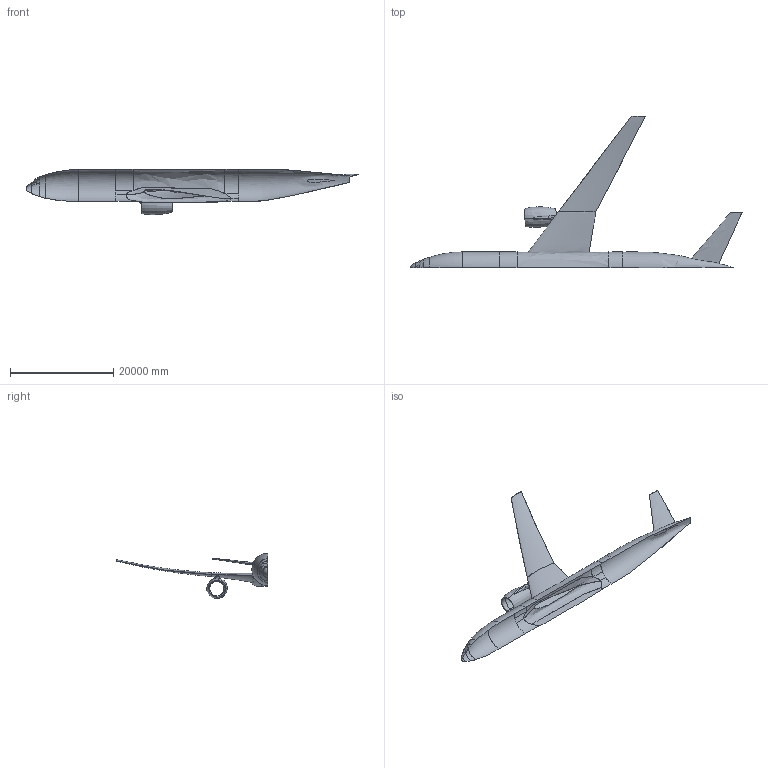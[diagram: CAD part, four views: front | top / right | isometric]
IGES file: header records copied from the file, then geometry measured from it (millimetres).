
Start section:  * IGES Dump file written on 1 Feb 2016  *  * IGES Dump file:  * C:\Users\mrg\work\AIAA_DPW\DPW6\DLR_meshes\all\2deg75\DPW6_CRM_wbnpt  * _ih+0_v09_2016-01-28_ae2.75deg_cf.igs  *  * Created from part:  * EXP1  *  * Contained in model:  * C:\Users\mrg\work\AIAA_DPW\DPW6\DLR_meshes\all\2deg75\DPW6_CRM_wbnpt  * _ih+0_v09_2016-01-28_ae2.75deg  *
Global section: file name: filename_too_long.igs; native system: CADfix; preprocessor:   10/25879; date: 20160201.205441; units: inch
Bounding box: 64362.38 x 29450.8 x 8766.91 mm (x, y, z)
Surface area: 1105646938 mm2 (no closed solid volume)
Topology: 0 solids, 0 shells, 61 faces, 289 edges, 288 vertices
Faces by surface type: bspline 61
